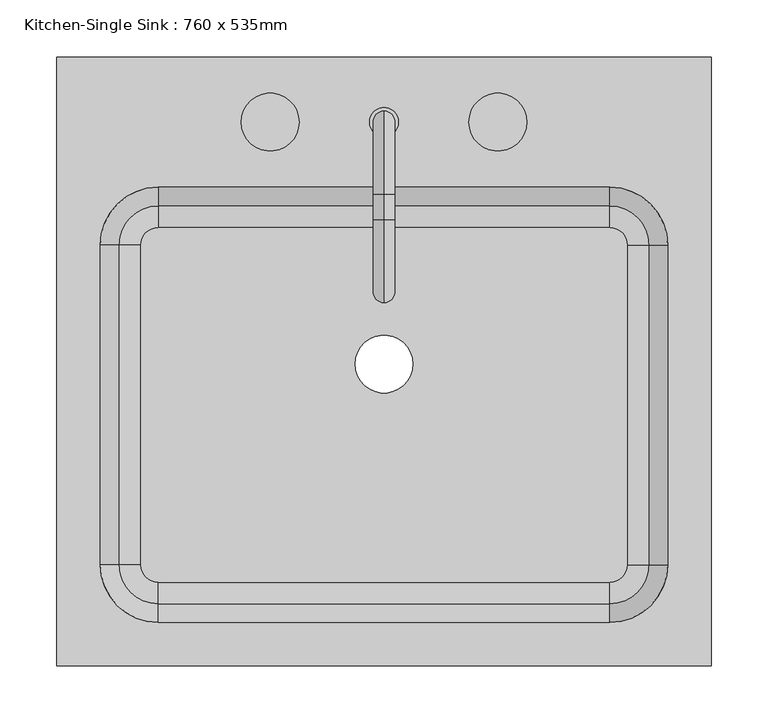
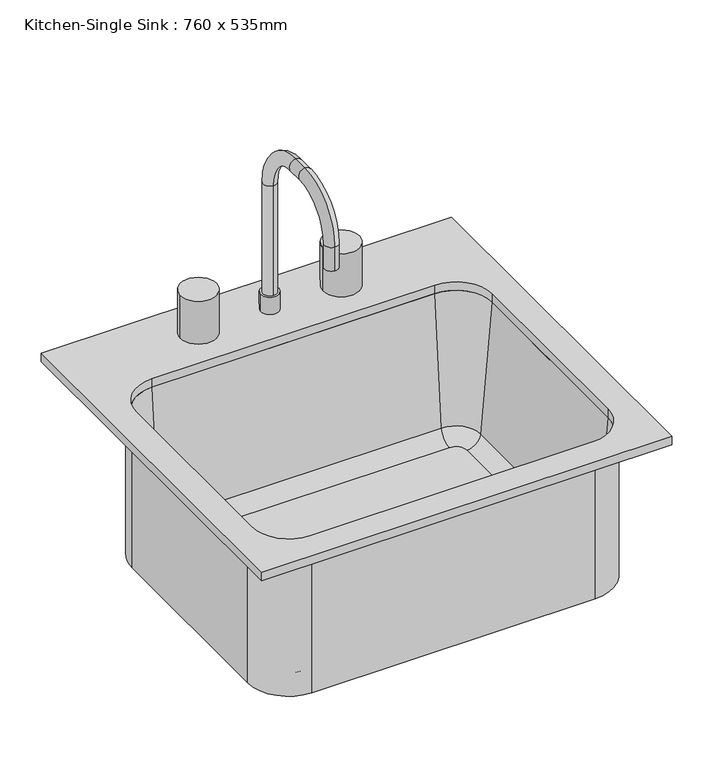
"""IFC4 building model written with IfcOpenShell, lengths in millimetres: flow terminal geometry, Kitchen-Single Sink : 760 x 535mm."""

from ifc_helpers import new_model, si_unit, point, frame, frame_2d, origin, place, context, project, spatial, polyline, circle_curve, ellipse_curve, trimmed, segment, composite_curve, outline, extrude, source, transform, mapped, element, save
from ifc_brep_helpers import plane_surface, cylinder_surface, revolved_surface, advanced_brep


def kitchen_single_sink_760_x_535mm_32917d62(model_context):
    return source(origin(), model_context, "Body", "SolidModel", [
        advanced_brep(
        [(271.0618328, 104.7454011, 546.1), (213.9118328, 161.8954011, 546.1), (213.9118328, 161.8954011, 762.0), (271.0618328, 104.7454011, 762.0), (271.0618328, -176.2545989, 546.1), (213.9118328, -233.4045989, 546.1), (-182.5333517, -233.4045989, 546.1), (-239.6833517, -176.2545989, 546.1), (-239.6833517, 104.7454011, 546.1), (-182.5333517, 161.8954011, 546.1), (-9.7107594, 0.0, 546.1), (41.0892406, 0.0, 546.1), (229.200251, 104.7454011, 555.625), (213.9118328, 120.0338193, 555.625), (-182.5333517, 120.0338193, 555.625), (-197.8217699, 104.7454011, 555.625), (-197.8217699, -176.2545989, 555.625), (-182.5333517, -191.5430171, 555.625), (213.9118328, -191.5430171, 555.625), (229.200251, -176.2545989, 555.625), (-9.7107594, 0.0, 555.625), (41.0892406, 0.0, 555.625), (248.17776, 104.7454011, 573.0146831), (213.9118328, 139.0113283, 573.0146831), (264.7118328, 104.7454011, 762.0), (213.9118328, 155.5454011, 762.0), (271.0618328, -176.2545989, 762.0), (248.17776, -176.2545989, 573.0146831), (264.7118328, -176.2545989, 762.0), (213.9118328, -233.4045989, 762.0), (213.9118328, -210.5205261, 573.0146831), (213.9118328, -227.0545989, 762.0), (-182.5333517, -233.4045989, 762.0), (-182.5333517, -210.5205261, 573.0146831), (-182.5333517, -227.0545989, 762.0), (-239.6833517, -176.2545989, 762.0), (-216.7992789, -176.2545989, 573.0146831), (-233.3333517, -176.2545989, 762.0), (-239.6833517, 104.7454011, 762.0), (-216.7992789, 104.7454011, 573.0146831), (-233.3333517, 104.7454011, 762.0), (-182.5333517, 161.8954011, 762.0), (-182.5333517, 139.0113283, 573.0146831), (-182.5333517, 155.5454011, 762.0)],
        [
            (0, 1, circle_curve(frame((213.9118328, 104.7454011, 546.1), z_axis=(0.0, 0.0, 1.0), x_axis=(0.0, 1.0, 0.0)), 57.15)),
            (1, 2),
            (2, 3, circle_curve(frame((213.9118328, 104.7454011, 762.0), z_axis=(0.0, 0.0, -1.0), x_axis=(0.0, 1.0, 0.0)), 57.15)),
            (3, 0),
            (0, 4),
            (4, 5, circle_curve(frame((213.9118328, -176.2545989, 546.1), z_axis=(0.0, 0.0, -1.0), x_axis=(1.0, 0.0, 0.0)), 57.15)),
            (5, 6),
            (6, 7, circle_curve(frame((-182.5333517, -176.2545989, 546.1), z_axis=(0.0, 0.0, -1.0), x_axis=(0.0, -1.0, 0.0)), 57.15)),
            (7, 8),
            (8, 9, circle_curve(frame((-182.5333517, 104.7454011, 546.1), z_axis=(0.0, 0.0, -1.0), x_axis=(-1.0, 0.0, 0.0)), 57.15)),
            (9, 1),
            (10, 11, circle_curve(frame((15.6892406, 0.0, 546.1), z_axis=(0.0, 0.0, 1.0), x_axis=(1.0, 0.0, 0.0)), 25.4)),
            (11, 10, circle_curve(frame((15.6892406, 0.0, 546.1), z_axis=(0.0, 0.0, 1.0), x_axis=(1.0, 0.0, 0.0)), 25.4)),
            (12, 13, circle_curve(frame((213.9118328, 104.7454011, 555.625), z_axis=(0.0, 0.0, 1.0), x_axis=(0.0, 1.0, 0.0)), 15.2884182)),
            (13, 14),
            (14, 15, circle_curve(frame((-182.5333517, 104.7454011, 555.625), z_axis=(0.0, 0.0, 1.0), x_axis=(-1.0, 0.0, 0.0)), 15.2884182)),
            (15, 16),
            (16, 17, circle_curve(frame((-182.5333517, -176.2545989, 555.625), z_axis=(0.0, 0.0, 1.0), x_axis=(0.0, -1.0, 0.0)), 15.2884182)),
            (17, 18),
            (18, 19, circle_curve(frame((213.9118328, -176.2545989, 555.625), z_axis=(0.0, 0.0, 1.0), x_axis=(1.0, 0.0, 0.0)), 15.2884182)),
            (19, 12),
            (20, 21, circle_curve(frame((15.6892406, 0.0, 555.625), z_axis=(0.0, 0.0, -1.0), x_axis=(1.0, 0.0, 0.0)), 25.4)),
            (21, 20, circle_curve(frame((15.6892406, 0.0, 555.625), z_axis=(0.0, 0.0, -1.0), x_axis=(1.0, 0.0, 0.0)), 25.4)),
            (12, 22, circle_curve(frame((229.200251, 104.7454011, 574.675), z_axis=(0.0, -1.0, 0.0), x_axis=(1.0, 0.0, 0.0)), 19.05)),
            (22, 23, circle_curve(frame((213.9118328, 104.7454011, 573.0146831), z_axis=(0.0, 0.0, 1.0), x_axis=(0.0, 1.0, 0.0)), 34.2659272)),
            (23, 13, circle_curve(frame((213.9118328, 120.0338193, 574.675), z_axis=(-1.0, 0.0, 0.0), x_axis=(0.0, 1.0, 0.0)), 19.05)),
            (22, 24),
            (24, 25, circle_curve(frame((213.9118328, 104.7454011, 762.0), z_axis=(0.0, 0.0, 1.0), x_axis=(0.0, 1.0, 0.0)), 50.8)),
            (25, 23),
            (2, 25),
            (24, 3),
            (3, 26),
            (26, 4),
            (19, 27, circle_curve(frame((229.200251, -176.2545989, 574.675), z_axis=(0.0, -1.0, 0.0), x_axis=(1.0, 0.0, 0.0)), 19.05)),
            (27, 22),
            (27, 28),
            (28, 24),
            (28, 26),
            (26, 29, circle_curve(frame((213.9118328, -176.2545989, 762.0), z_axis=(0.0, 0.0, -1.0), x_axis=(1.0, 0.0, 0.0)), 57.15)),
            (29, 5),
            (18, 30, circle_curve(frame((213.9118328, -191.5430171, 574.675), z_axis=(-1.0, 0.0, 0.0), x_axis=(0.0, -1.0, 0.0)), 19.05)),
            (30, 27, circle_curve(frame((213.9118328, -176.2545989, 573.0146831), z_axis=(0.0, 0.0, 1.0), x_axis=(1.0, 0.0, 0.0)), 34.2659272)),
            (30, 31),
            (31, 28, circle_curve(frame((213.9118328, -176.2545989, 762.0), z_axis=(0.0, 0.0, 1.0), x_axis=(1.0, 0.0, 0.0)), 50.8)),
            (31, 29),
            (29, 32),
            (32, 6),
            (17, 33, circle_curve(frame((-182.5333517, -191.5430171, 574.675), z_axis=(-1.0, 0.0, 0.0), x_axis=(0.0, -1.0, 0.0)), 19.05)),
            (33, 30),
            (33, 34),
            (34, 31),
            (34, 32),
            (32, 35, circle_curve(frame((-182.5333517, -176.2545989, 762.0), z_axis=(0.0, 0.0, -1.0), x_axis=(0.0, -1.0, 0.0)), 57.15)),
            (35, 7),
            (16, 36, circle_curve(frame((-197.8217699, -176.2545989, 574.675), z_axis=(0.0, 1.0, 0.0), x_axis=(-1.0, 0.0, 0.0)), 19.05)),
            (36, 33, circle_curve(frame((-182.5333517, -176.2545989, 573.0146831), z_axis=(0.0, 0.0, 1.0), x_axis=(0.0, -1.0, 0.0)), 34.2659272)),
            (36, 37),
            (37, 34, circle_curve(frame((-182.5333517, -176.2545989, 762.0), z_axis=(0.0, 0.0, 1.0), x_axis=(0.0, -1.0, 0.0)), 50.8)),
            (37, 35),
            (35, 38),
            (38, 8),
            (15, 39, circle_curve(frame((-197.8217699, 104.7454011, 574.675), z_axis=(0.0, 1.0, 0.0), x_axis=(-1.0, 0.0, 0.0)), 19.05)),
            (39, 36),
            (39, 40),
            (40, 37),
            (40, 38),
            (38, 41, circle_curve(frame((-182.5333517, 104.7454011, 762.0), z_axis=(0.0, 0.0, -1.0), x_axis=(-1.0, 0.0, 0.0)), 57.15)),
            (41, 9),
            (14, 42, circle_curve(frame((-182.5333517, 120.0338193, 574.675), z_axis=(1.0, 0.0, 0.0), x_axis=(0.0, 1.0, 0.0)), 19.05)),
            (42, 39, circle_curve(frame((-182.5333517, 104.7454011, 573.0146831), z_axis=(0.0, 0.0, 1.0), x_axis=(-1.0, 0.0, 0.0)), 34.2659272)),
            (42, 43),
            (43, 40, circle_curve(frame((-182.5333517, 104.7454011, 762.0), z_axis=(0.0, 0.0, 1.0), x_axis=(-1.0, 0.0, 0.0)), 50.8)),
            (43, 41),
            (41, 2),
            (23, 42),
            (25, 43),
            (20, 10),
            (11, 21),
        ],
        [
            cylinder_surface(frame((213.9118328, 104.7454011, 0.0), z_axis=(0.0, 0.0, -1.0), x_axis=(0.0, 1.0, 0.0)), 57.15),
            plane_surface(frame((213.9118328, 104.7454011, 546.1), z_axis=(0.0, 0.0, -1.0), x_axis=(0.0, 1.0, 0.0))),
            plane_surface(frame((213.9118328, 104.7454011, 555.625), z_axis=(0.0, 0.0, 1.0), x_axis=(0.0, 1.0, 0.0))),
            revolved_surface(trimmed(ellipse_curve(frame((213.9118328, 120.0338193, 574.675), z_axis=(1.0, 0.0, 0.0), x_axis=(0.0, 1.0, 0.0)), 19.05, 19.05), [point((213.9118328, 120.0338193, 555.625))], [point((213.9118328, 139.0113283, 573.0146831))], True, "CARTESIAN"), (213.9118328, 104.7454011, 0.0), (0.0, 0.0, -1.0)),
            revolved_surface(polyline([(213.9118328, 139.0113283, 573.0146831), (213.9118328, 155.5454011, 762.0)]), (213.9118328, 104.7454011, 0.0), (0.0, 0.0, -1.0)),
            plane_surface(frame((213.9118328, 104.7454011, 762.0), z_axis=(0.0, 0.0, 1.0), x_axis=(0.0, 1.0, 0.0))),
            plane_surface(frame((271.0618328, 104.7454011, 762.0), z_axis=(1.0, 0.0, 0.0), x_axis=(0.0, -1.0, 0.0))),
            revolved_surface(polyline([(248.25025100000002, -176.25459890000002, 574.675), (248.25025100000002, 104.7454011, 574.675)]), (229.200251, 104.7454011, 574.675), (0.0, -1.0, 0.0)),
            plane_surface(frame((248.17776, 104.7454011, 573.0146831), z_axis=(-0.9961946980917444, 0.0, 0.08715574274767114), x_axis=(0.0, -1.0, 0.0))),
            plane_surface(frame((264.7118328, 104.7454011, 762.0), z_axis=(0.0, 0.0, 1.0), x_axis=(0.0, -1.0, 0.0))),
            cylinder_surface(frame((213.9118328, -176.2545989, 0.0), z_axis=(0.0, 0.0, -1.0), x_axis=(1.0, 0.0, 0.0)), 57.15),
            revolved_surface(trimmed(ellipse_curve(frame((229.200251, -176.2545989, 574.675), z_axis=(0.0, -1.0, 0.0), x_axis=(1.0, 0.0, 0.0)), 19.05, 19.05), [point((229.200251, -176.2545989, 555.625))], [point((248.17776, -176.2545989, 573.0146831))], True, "CARTESIAN"), (213.9118328, -176.2545989, 0.0), (0.0, 0.0, -1.0)),
            revolved_surface(polyline([(248.17776, -176.2545989, 573.0146831), (264.7118328, -176.2545989, 762.0)]), (213.9118328, -176.2545989, 0.0), (0.0, 0.0, -1.0)),
            plane_surface(frame((213.9118328, -176.2545989, 762.0), z_axis=(0.0, 0.0, 1.0), x_axis=(1.0, 0.0, 0.0))),
            plane_surface(frame((213.9118328, -233.4045989, 762.0), z_axis=(0.0, -1.0, 0.0), x_axis=(-1.0, 0.0, 0.0))),
            revolved_surface(polyline([(-182.53335169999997, -210.5930171, 574.675), (213.9118328, -210.5930171, 574.675)]), (213.9118328, -191.5430171, 574.675), (-1.0, 0.0, 0.0)),
            plane_surface(frame((213.9118328, -210.5205261, 573.0146831), z_axis=(0.0, 0.9961946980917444, 0.08715574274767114), x_axis=(-1.0, 0.0, 0.0))),
            plane_surface(frame((213.9118328, -227.0545989, 762.0), z_axis=(0.0, 0.0, 1.0), x_axis=(-1.0, 0.0, 0.0))),
            cylinder_surface(frame((-182.5333517, -176.2545989, 0.0), z_axis=(0.0, 0.0, -1.0), x_axis=(0.0, -1.0, 0.0)), 57.15),
            revolved_surface(trimmed(ellipse_curve(frame((-182.5333517, -191.5430171, 574.675), z_axis=(-1.0, 0.0, 0.0), x_axis=(0.0, -1.0, 0.0)), 19.05, 19.05), [point((-182.5333517, -191.5430171, 555.625))], [point((-182.5333517, -210.5205261, 573.0146831))], True, "CARTESIAN"), (-182.5333517, -176.2545989, 0.0), (0.0, 0.0, -1.0)),
            revolved_surface(polyline([(-182.5333517, -210.5205261, 573.0146831), (-182.5333517, -227.0545989, 762.0)]), (-182.5333517, -176.2545989, 0.0), (0.0, 0.0, -1.0)),
            plane_surface(frame((-182.5333517, -176.2545989, 762.0), z_axis=(0.0, 0.0, 1.0), x_axis=(0.0, -1.0, 0.0))),
            plane_surface(frame((-239.6833517, -176.2545989, 762.0), z_axis=(-1.0, 0.0, 0.0), x_axis=(0.0, 1.0, 0.0))),
            revolved_surface(polyline([(-216.8717699, 104.74540110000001, 574.675), (-216.8717699, -176.2545989, 574.675)]), (-197.8217699, -176.2545989, 574.675), (0.0, 1.0, 0.0)),
            plane_surface(frame((-216.7992789, -176.2545989, 573.0146831), z_axis=(0.9961946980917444, 0.0, 0.08715574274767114), x_axis=(0.0, 1.0, 0.0))),
            plane_surface(frame((-233.3333517, -176.2545989, 762.0), z_axis=(0.0, 0.0, 1.0), x_axis=(0.0, 1.0, 0.0))),
            cylinder_surface(frame((-182.5333517, 104.7454011, 0.0), z_axis=(0.0, 0.0, -1.0), x_axis=(-1.0, 0.0, 0.0)), 57.15),
            revolved_surface(trimmed(ellipse_curve(frame((-197.8217699, 104.7454011, 574.675), z_axis=(0.0, 1.0, 0.0), x_axis=(-1.0, 0.0, 0.0)), 19.05, 19.05), [point((-197.8217699, 104.7454011, 555.625))], [point((-216.7992789, 104.7454011, 573.0146831))], True, "CARTESIAN"), (-182.5333517, 104.7454011, 0.0), (0.0, 0.0, -1.0)),
            revolved_surface(polyline([(-216.7992789, 104.7454011, 573.0146831), (-233.3333517, 104.7454011, 762.0)]), (-182.5333517, 104.7454011, 0.0), (0.0, 0.0, -1.0)),
            plane_surface(frame((-182.5333517, 104.7454011, 762.0), z_axis=(0.0, 0.0, 1.0), x_axis=(-1.0, 0.0, 0.0))),
            plane_surface(frame((-182.5333517, 161.8954011, 762.0), z_axis=(0.0, 1.0, 0.0), x_axis=(1.0, 0.0, 0.0))),
            revolved_surface(polyline([(213.91183279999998, 139.08381930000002, 574.675), (-182.5333517, 139.08381930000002, 574.675)]), (-182.5333517, 120.0338193, 574.675), (1.0, 0.0, 0.0)),
            plane_surface(frame((-182.5333517, 139.0113283, 573.0146831), z_axis=(0.0, -0.9961946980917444, 0.08715574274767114), x_axis=(1.0, 0.0, 0.0))),
            plane_surface(frame((-182.5333517, 155.5454011, 762.0), z_axis=(0.0, 0.0, 1.0), x_axis=(1.0, 0.0, 0.0))),
            revolved_surface(polyline([(41.0892406, 0.0, 546.1), (41.0892406, 0.0, 555.625)]), (15.6892406, 0.0, 0.0), (0.0, 0.0, -1.0)),
        ],
        [
            (0, [[1, 2, 3, 4]]),
            (1, [[-1, 5, 6, 7, 8, 9, 10, 11], [12, 13]]),
            (2, [[14, 15, 16, 17, 18, 19, 20, 21], [22, 23]]),
            (3, [[-14, 24, 25, 26]]),
            (4, [[-25, 27, 28, 29]]),
            (5, [[-3, 30, -28, 31]]),
            (6, [[-4, 32, 33, -5]]),
            (7, [[-24, -21, 34, 35]]),
            (8, [[-27, -35, 36, 37]]),
            (9, [[-31, -37, 38, -32]]),
            (10, [[-33, 39, 40, -6]]),
            (11, [[-34, -20, 41, 42]]),
            (12, [[-36, -42, 43, 44]]),
            (13, [[-38, -44, 45, -39]]),
            (14, [[-40, 46, 47, -7]]),
            (15, [[-41, -19, 48, 49]]),
            (16, [[-43, -49, 50, 51]]),
            (17, [[-45, -51, 52, -46]]),
            (18, [[-47, 53, 54, -8]]),
            (19, [[-48, -18, 55, 56]]),
            (20, [[-50, -56, 57, 58]]),
            (21, [[-52, -58, 59, -53]]),
            (22, [[-54, 60, 61, -9]]),
            (23, [[-55, -17, 62, 63]]),
            (24, [[-57, -63, 64, 65]]),
            (25, [[-59, -65, 66, -60]]),
            (26, [[-61, 67, 68, -10]]),
            (27, [[-62, -16, 69, 70]]),
            (28, [[-64, -70, 71, 72]]),
            (29, [[-66, -72, 73, -67]]),
            (30, [[-2, -11, -68, 74]]),
            (31, [[-26, 75, -69, -15]]),
            (32, [[-29, 76, -71, -75]]),
            (33, [[-30, -74, -73, -76]]),
            (34, [[-22, 77, -13, 78]]),
            (34, [[-23, -78, -12, -77]]),
        ],
    ),
        advanced_brep(
        [(2.9892406, 212.6954011, 800.1), (28.3892406, 212.6954011, 800.1), (15.6892406, 222.2204011, 800.1), (15.6892406, 203.1704011, 800.1), (2.9892406, 212.6954011, 774.7), (28.3892406, 212.6954011, 774.7), (15.6892406, 222.2204011, 962.025), (15.6892406, 203.1704011, 962.025), (15.6892406, 149.1954011, 1035.05), (15.6892406, 149.1954011, 1016.0), (15.6892406, 126.9704011, 1035.05), (15.6892406, 126.9704011, 1016.0), (15.6892406, 53.9454011, 962.025), (15.6892406, 72.9954011, 962.025), (15.6892406, 53.9454011, 927.1), (15.6892406, 72.9954011, 927.1)],
        [
            (0, 1, circle_curve(frame((15.6892406, 212.6954011, 800.1), z_axis=(0.0, 0.0, 1.0), x_axis=(1.0, 0.0, 0.0)), 12.7)),
            (1, 0, circle_curve(frame((15.6892406, 212.6954011, 800.1), z_axis=(0.0, 0.0, 1.0), x_axis=(1.0, 0.0, 0.0)), 12.7)),
            (2, 3, circle_curve(frame((15.6892406, 212.6954011, 800.1), z_axis=(0.0, 0.0, -1.0), x_axis=(0.0, -1.0, 0.0)), 9.525)),
            (3, 2, circle_curve(frame((15.6892406, 212.6954011, 800.1), z_axis=(0.0, 0.0, -1.0), x_axis=(0.0, -1.0, 0.0)), 9.525)),
            (4, 5, circle_curve(frame((15.6892406, 212.6954011, 774.7), z_axis=(0.0, 0.0, -1.0), x_axis=(1.0, 0.0, 0.0)), 12.7)),
            (5, 4, circle_curve(frame((15.6892406, 212.6954011, 774.7), z_axis=(0.0, 0.0, -1.0), x_axis=(1.0, 0.0, 0.0)), 12.7)),
            (0, 4),
            (5, 1),
            (6, 7, circle_curve(frame((15.6892406, 212.6954011, 962.025), z_axis=(0.0, 0.0, -1.0), x_axis=(0.0, -1.0, 0.0)), 9.525)),
            (7, 3),
            (2, 6),
            (7, 6, circle_curve(frame((15.6892406, 212.6954011, 962.025), z_axis=(0.0, 0.0, -1.0), x_axis=(0.0, -1.0, 0.0)), 9.525)),
            (6, 8, circle_curve(frame((15.6892406, 149.1954011, 962.025), z_axis=(1.0, 0.0, 0.0), x_axis=(0.0, 1.0, 0.0)), 73.025)),
            (8, 9, circle_curve(frame((15.6892406, 149.1954011, 1025.525), z_axis=(0.0, 1.0, 0.0), x_axis=(0.0, 0.0, -1.0)), 9.525)),
            (9, 7, circle_curve(frame((15.6892406, 149.1954011, 962.025), z_axis=(-1.0, 0.0, 0.0), x_axis=(0.0, 1.0, 0.0)), 53.975)),
            (9, 8, circle_curve(frame((15.6892406, 149.1954011, 1025.525), z_axis=(0.0, 1.0, 0.0), x_axis=(0.0, 0.0, -1.0)), 9.525)),
            (8, 10),
            (10, 11, circle_curve(frame((15.6892406, 126.9704011, 1025.525), z_axis=(0.0, 1.0, 0.0), x_axis=(0.0, 0.0, -1.0)), 9.525)),
            (11, 9),
            (11, 10, circle_curve(frame((15.6892406, 126.9704011, 1025.525), z_axis=(0.0, 1.0, 0.0), x_axis=(0.0, 0.0, -1.0)), 9.525)),
            (10, 12, circle_curve(frame((15.6892406, 126.9704011, 962.025), z_axis=(1.0, 0.0, 0.0), x_axis=(0.0, 0.0, 1.0)), 73.025)),
            (12, 13, circle_curve(frame((15.6892406, 63.4704011, 962.025), z_axis=(0.0, 0.0, 1.0), x_axis=(0.0, 1.0, 0.0)), 9.525)),
            (13, 11, circle_curve(frame((15.6892406, 126.9704011, 962.025), z_axis=(-1.0, 0.0, 0.0), x_axis=(0.0, 0.0, 1.0)), 53.975)),
            (13, 12, circle_curve(frame((15.6892406, 63.4704011, 962.025), z_axis=(0.0, 0.0, 1.0), x_axis=(0.0, 1.0, 0.0)), 9.525)),
            (14, 15, circle_curve(frame((15.6892406, 63.4704011, 927.1), z_axis=(0.0, 0.0, -1.0), x_axis=(0.0, 1.0, 0.0)), 9.525)),
            (15, 14, circle_curve(frame((15.6892406, 63.4704011, 927.1), z_axis=(0.0, 0.0, -1.0), x_axis=(0.0, 1.0, 0.0)), 9.525)),
            (12, 14),
            (15, 13),
        ],
        [
            plane_surface(frame((28.3892406, 212.6954011, 800.1), z_axis=(0.0, 0.0, 1.0), x_axis=(0.0, 1.0, 0.0))),
            plane_surface(frame((28.3892406, 212.6954011, 774.7), z_axis=(0.0, 0.0, -1.0), x_axis=(0.0, -1.0, 0.0))),
            cylinder_surface(frame((15.6892406, 212.6954011, 774.7), z_axis=(0.0, 0.0, 1.0), x_axis=(1.0, 0.0, 0.0)), 12.7),
            cylinder_surface(frame((15.6892406, 212.6954011, 774.7), z_axis=(0.0, 0.0, -1.0), x_axis=(0.0, -1.0, 0.0)), 9.525),
            revolved_surface(trimmed(ellipse_curve(frame((15.6892406, 212.6954011, 962.025), z_axis=(0.0, 0.0, -1.0), x_axis=(0.0, -1.0, 0.0)), 9.525, 9.525), [point((15.6892406, 222.2204011, 962.025))], [point((15.6892406, 203.1704011, 962.025))], True, "CARTESIAN"), (15.6892406, 149.1954011, 962.025), (1.0, 0.0, 0.0)),
            revolved_surface(trimmed(ellipse_curve(frame((15.6892406, 212.6954011, 962.025), z_axis=(0.0, 0.0, -1.0), x_axis=(0.0, -1.0, 0.0)), 9.525, 9.525), [point((15.6892406, 203.1704011, 962.025))], [point((15.6892406, 222.2204011, 962.025))], True, "CARTESIAN"), (15.6892406, 149.1954011, 962.025), (1.0, 0.0, 0.0)),
            cylinder_surface(frame((15.6892406, 149.1954011, 1025.525), z_axis=(0.0, 1.0, 0.0), x_axis=(0.0, 0.0, -1.0)), 9.525),
            revolved_surface(trimmed(ellipse_curve(frame((15.6892406, 126.9704011, 1025.525), z_axis=(0.0, 1.0, 0.0), x_axis=(0.0, 0.0, -1.0)), 9.525, 9.525), [point((15.6892406, 126.9704011, 1035.05))], [point((15.6892406, 126.9704011, 1016.0))], True, "CARTESIAN"), (15.6892406, 126.9704011, 962.025), (1.0, 0.0, 0.0)),
            revolved_surface(trimmed(ellipse_curve(frame((15.6892406, 126.9704011, 1025.525), z_axis=(0.0, 1.0, 0.0), x_axis=(0.0, 0.0, -1.0)), 9.525, 9.525), [point((15.6892406, 126.9704011, 1016.0))], [point((15.6892406, 126.9704011, 1035.05))], True, "CARTESIAN"), (15.6892406, 126.9704011, 962.025), (1.0, 0.0, 0.0)),
            plane_surface(frame((15.6892406, 53.9454011, 927.1), z_axis=(0.0, 0.0, -1.0), x_axis=(-1.0, 0.0, 0.0))),
            cylinder_surface(frame((15.6892406, 63.4704011, 962.025), z_axis=(0.0, 0.0, 1.0), x_axis=(0.0, 1.0, 0.0)), 9.525),
        ],
        [
            (0, [[1, 2], [3, 4]]),
            (1, [[5, 6]]),
            (2, [[-1, 7, -6, 8]]),
            (2, [[-2, -8, -5, -7]]),
            (3, [[9, 10, -3, 11]]),
            (3, [[12, -11, -4, -10]]),
            (4, [[-9, 13, 14, 15]]),
            (5, [[-12, -15, 16, -13]]),
            (6, [[-14, 17, 18, 19]]),
            (6, [[-16, -19, 20, -17]]),
            (7, [[-18, 21, 22, 23]]),
            (8, [[-20, -23, 24, -21]]),
            (9, [[25, 26]]),
            (10, [[-22, 27, -26, 28]]),
            (10, [[-24, -28, -25, -27]]),
        ],
    ),
        extrude(outline(composite_curve([segment(trimmed(circle_curve(frame_2d((-84.3107594, 212.6954011)), 25.4), [point((-109.7107594, 212.6954011))], [point((-58.9107594, 212.6954011))], False, "CARTESIAN"), True, "CONTINUOUS"), segment(trimmed(circle_curve(frame_2d((-84.3107594, 212.6954011)), 25.4), [point((-58.9107594, 212.6954011))], [point((-109.7107594, 212.6954011))], False, "CARTESIAN"), True, "CONTINUOUS")], self_intersect=False)), frame((0.0, 0.0, 774.7), z_axis=(0.0, 0.0, 1.0), x_axis=(1.0, 0.0, 0.0)), (0.0, 0.0, 1.0), 63.5),
        extrude(outline(composite_curve([segment(trimmed(circle_curve(frame_2d((115.6892406, 212.6954011)), 25.4), [point((90.2892406, 212.6954011))], [point((141.0892406, 212.6954011))], False, "CARTESIAN"), True, "CONTINUOUS"), segment(trimmed(circle_curve(frame_2d((115.6892406, 212.6954011)), 25.4), [point((141.0892406, 212.6954011))], [point((90.2892406, 212.6954011))], False, "CARTESIAN"), True, "CONTINUOUS")], self_intersect=False)), frame((0.0, 0.0, 774.7), z_axis=(0.0, 0.0, 1.0), x_axis=(1.0, 0.0, 0.0)), (0.0, 0.0, 1.0), 63.5),
        extrude(outline(polyline([(302.8118328, 269.8454011), (302.8118328, -265.1545989), (-271.4333517, -265.1545989), (-271.4333517, 269.8454011), (302.8118328, 269.8454011)]), holes=[composite_curve([segment(polyline([(213.9118328, 155.5454011), (-182.5333517, 155.5454011)]), True, "CONTINUOUS"), segment(trimmed(circle_curve(frame_2d((-182.5333517, 104.7454011)), 50.8), [point((-182.5333517, 155.5454011))], [point((-233.3333517, 104.7454011))], True, "CARTESIAN"), True, "CONTINUOUS"), segment(polyline([(-233.3333517, 104.7454011), (-233.3333517, -176.2545989)]), True, "CONTINUOUS"), segment(trimmed(circle_curve(frame_2d((-182.5333517, -176.2545989)), 50.8), [point((-233.3333517, -176.2545989))], [point((-182.5333517, -227.0545989))], True, "CARTESIAN"), True, "CONTINUOUS"), segment(polyline([(-182.5333517, -227.0545989), (213.9118328, -227.0545989)]), True, "CONTINUOUS"), segment(trimmed(circle_curve(frame_2d((213.9118328, -176.2545989)), 50.8), [point((213.9118328, -227.0545989))], [point((264.7118328, -176.2545989))], True, "CARTESIAN"), True, "CONTINUOUS"), segment(polyline([(264.7118328, -176.2545989), (264.7118328, 104.7454011)]), True, "CONTINUOUS"), segment(trimmed(circle_curve(frame_2d((213.9118328, 104.7454011)), 50.8), [point((264.7118328, 104.7454011))], [point((213.9118328, 155.5454011))], True, "CARTESIAN"), True, "CONTINUOUS")], self_intersect=False)]), frame((0.0, 0.0, 762.0), z_axis=(0.0, 0.0, 1.0), x_axis=(1.0, 0.0, 0.0)), (0.0, 0.0, 1.0), 12.7),
    ])


if __name__ == "__main__":
    model = new_model("IFC4")
    model_context = context("Model", 3, world=origin())
    ifc_project = project(units=[si_unit("LENGTHUNIT", "METRE", prefix="MILLI")], contexts=[model_context])
    site = spatial("IfcSite", under=ifc_project)
    building = spatial("IfcBuilding", under=site)
    placement = place(None, origin())
    kitchen_single_sink_760_x_535mm_shape = kitchen_single_sink_760_x_535mm_32917d62(model_context)
    element("IfcFlowTerminal", 1, ObjectType="Kitchen-Single Sink : 760 x 535mm", at=placement, inside=building, context=model_context, shape_type="MappedRepresentation", body=[
        mapped(kitchen_single_sink_760_x_535mm_shape, transform((0.0, 0.0, 0.0), x_axis=(1.0, 0.0, 0.0), y_axis=(0.0, 1.0, 0.0), z_axis=(0.0, 0.0, 1.0))),
    ])
    save(model, "model.ifc")
